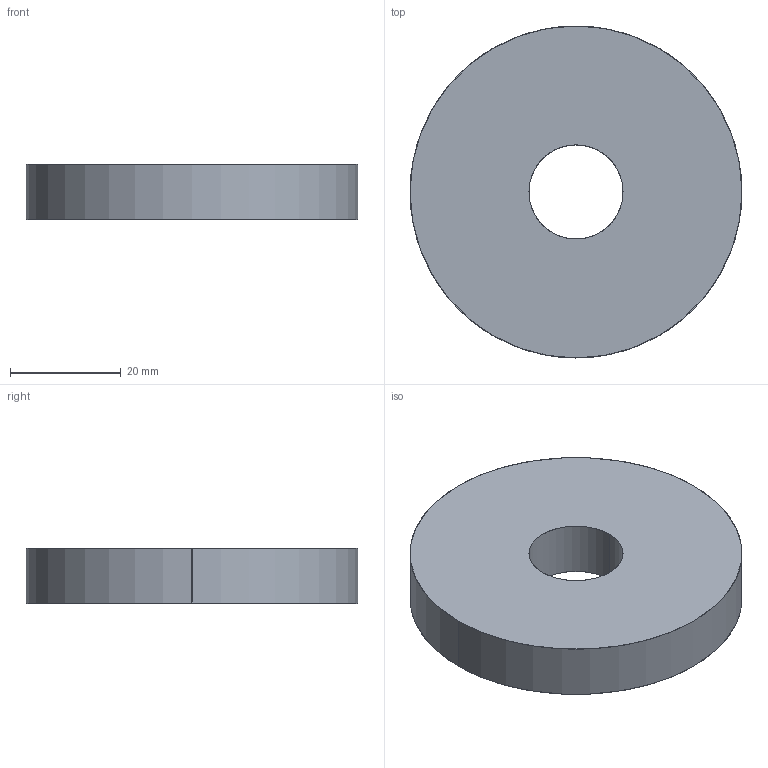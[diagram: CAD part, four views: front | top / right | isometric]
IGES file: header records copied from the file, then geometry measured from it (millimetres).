
Start section: SolidWorks IGES file using analytic representation for surfaces
Global section: file name: X:\11_SW2020-Inv2020\00_全2021-11新製品まで\b\BJ623-16004\bj623-16004.IGS; native system: SolidWorks 2020; preprocessor: SolidWorks 2020; author: ImaoCorp; date: 211025.085750; units: millimetre
Bounding box: 60 x 60 x 10 mm (x, y, z)
Surface area: 7619.9 mm2 (no closed solid volume)
Topology: 0 solids, 0 shells, 6 faces, 208 edges, 208 vertices
Faces by surface type: revolution 4, bspline 2
